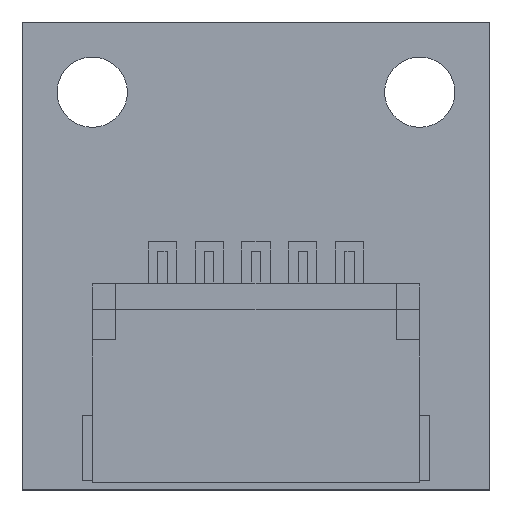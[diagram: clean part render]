
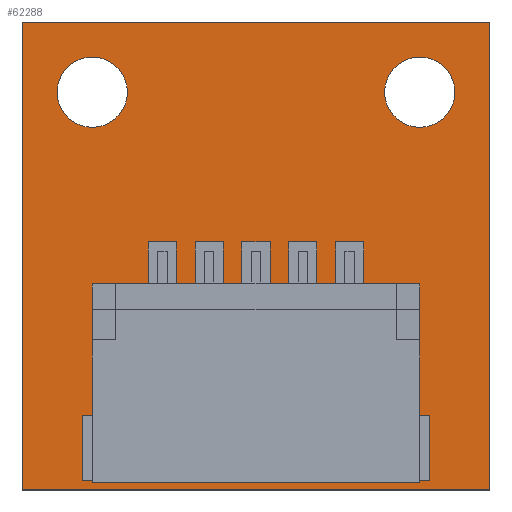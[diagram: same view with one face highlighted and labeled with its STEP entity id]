
A CAD part, top view. The second image highlights one B-rep face of the part: STEP entity #62288.
In plain terms, the highlighted planar face has unit normal (0, 0, 1).
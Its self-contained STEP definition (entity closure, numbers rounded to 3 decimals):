
#61812 = VERTEX_POINT('',#61813);
#61813 = CARTESIAN_POINT('',(15.,10.,0.6));
#61820 = PLANE('',#61821);
#61821 = AXIS2_PLACEMENT_3D('',#61822,#61823,#61824);
#61822 = CARTESIAN_POINT('',(15.,10.,0.));
#61823 = DIRECTION('',(0.,1.,0.));
#61824 = DIRECTION('',(1.,0.,0.));
#61832 = PLANE('',#61833);
#61833 = AXIS2_PLACEMENT_3D('',#61834,#61835,#61836);
#61834 = CARTESIAN_POINT('',(15.,20.,0.));
#61835 = DIRECTION('',(1.,0.,0.));
#61836 = DIRECTION('',(0.,-1.,0.));
#61844 = EDGE_CURVE('',#61812,#61845,#61847,.T.);
#61845 = VERTEX_POINT('',#61846);
#61846 = CARTESIAN_POINT('',(25.,10.,0.6));
#61847 = SURFACE_CURVE('',#61848,(#61852,#61859),.PCURVE_S1.);
#61848 = LINE('',#61849,#61850);
#61849 = CARTESIAN_POINT('',(15.,10.,0.6));
#61850 = VECTOR('',#61851,1.);
#61851 = DIRECTION('',(1.,0.,0.));
#61852 = PCURVE('',#61820,#61853);
#61853 = DEFINITIONAL_REPRESENTATION('',(#61854),#61858);
#61854 = LINE('',#61855,#61856);
#61855 = CARTESIAN_POINT('',(0.,-0.6));
#61856 = VECTOR('',#61857,1.);
#61857 = DIRECTION('',(1.,0.));
#61858 = ( GEOMETRIC_REPRESENTATION_CONTEXT(2) 
PARAMETRIC_REPRESENTATION_CONTEXT() REPRESENTATION_CONTEXT('2D SPACE',''
  ) );
#61859 = PCURVE('',#61860,#61865);
#61860 = PLANE('',#61861);
#61861 = AXIS2_PLACEMENT_3D('',#61862,#61863,#61864);
#61862 = CARTESIAN_POINT('',(20.,15.,0.6));
#61863 = DIRECTION('',(0.,0.,1.));
#61864 = DIRECTION('',(1.,0.,-0.));
#61865 = DEFINITIONAL_REPRESENTATION('',(#61866),#61870);
#61866 = LINE('',#61867,#61868);
#61867 = CARTESIAN_POINT('',(-5.,-5.));
#61868 = VECTOR('',#61869,1.);
#61869 = DIRECTION('',(1.,0.));
#61870 = ( GEOMETRIC_REPRESENTATION_CONTEXT(2) 
PARAMETRIC_REPRESENTATION_CONTEXT() REPRESENTATION_CONTEXT('2D SPACE',''
  ) );
#61888 = PLANE('',#61889);
#61889 = AXIS2_PLACEMENT_3D('',#61890,#61891,#61892);
#61890 = CARTESIAN_POINT('',(25.,10.,0.));
#61891 = DIRECTION('',(-1.,0.,0.));
#61892 = DIRECTION('',(0.,1.,0.));
#61932 = VERTEX_POINT('',#61933);
#61933 = CARTESIAN_POINT('',(15.,20.,0.6));
#61947 = PLANE('',#61948);
#61948 = AXIS2_PLACEMENT_3D('',#61949,#61950,#61951);
#61949 = CARTESIAN_POINT('',(25.,20.,0.));
#61950 = DIRECTION('',(0.,-1.,0.));
#61951 = DIRECTION('',(-1.,0.,0.));
#61959 = EDGE_CURVE('',#61932,#61812,#61960,.T.);
#61960 = SURFACE_CURVE('',#61961,(#61965,#61972),.PCURVE_S1.);
#61961 = LINE('',#61962,#61963);
#61962 = CARTESIAN_POINT('',(15.,20.,0.6));
#61963 = VECTOR('',#61964,1.);
#61964 = DIRECTION('',(0.,-1.,0.));
#61965 = PCURVE('',#61832,#61966);
#61966 = DEFINITIONAL_REPRESENTATION('',(#61967),#61971);
#61967 = LINE('',#61968,#61969);
#61968 = CARTESIAN_POINT('',(0.,-0.6));
#61969 = VECTOR('',#61970,1.);
#61970 = DIRECTION('',(1.,0.));
#61971 = ( GEOMETRIC_REPRESENTATION_CONTEXT(2) 
PARAMETRIC_REPRESENTATION_CONTEXT() REPRESENTATION_CONTEXT('2D SPACE',''
  ) );
#61972 = PCURVE('',#61860,#61973);
#61973 = DEFINITIONAL_REPRESENTATION('',(#61974),#61978);
#61974 = LINE('',#61975,#61976);
#61975 = CARTESIAN_POINT('',(-5.,5.));
#61976 = VECTOR('',#61977,1.);
#61977 = DIRECTION('',(0.,-1.));
#61978 = ( GEOMETRIC_REPRESENTATION_CONTEXT(2) 
PARAMETRIC_REPRESENTATION_CONTEXT() REPRESENTATION_CONTEXT('2D SPACE',''
  ) );
#62006 = EDGE_CURVE('',#61845,#62007,#62009,.T.);
#62007 = VERTEX_POINT('',#62008);
#62008 = CARTESIAN_POINT('',(25.,20.,0.6));
#62009 = SURFACE_CURVE('',#62010,(#62014,#62021),.PCURVE_S1.);
#62010 = LINE('',#62011,#62012);
#62011 = CARTESIAN_POINT('',(25.,10.,0.6));
#62012 = VECTOR('',#62013,1.);
#62013 = DIRECTION('',(0.,1.,0.));
#62014 = PCURVE('',#61888,#62015);
#62015 = DEFINITIONAL_REPRESENTATION('',(#62016),#62020);
#62016 = LINE('',#62017,#62018);
#62017 = CARTESIAN_POINT('',(0.,-0.6));
#62018 = VECTOR('',#62019,1.);
#62019 = DIRECTION('',(1.,0.));
#62020 = ( GEOMETRIC_REPRESENTATION_CONTEXT(2) 
PARAMETRIC_REPRESENTATION_CONTEXT() REPRESENTATION_CONTEXT('2D SPACE',''
  ) );
#62021 = PCURVE('',#61860,#62022);
#62022 = DEFINITIONAL_REPRESENTATION('',(#62023),#62027);
#62023 = LINE('',#62024,#62025);
#62024 = CARTESIAN_POINT('',(5.,-5.));
#62025 = VECTOR('',#62026,1.);
#62026 = DIRECTION('',(0.,1.));
#62027 = ( GEOMETRIC_REPRESENTATION_CONTEXT(2) 
PARAMETRIC_REPRESENTATION_CONTEXT() REPRESENTATION_CONTEXT('2D SPACE',''
  ) );
#62077 = EDGE_CURVE('',#62007,#61932,#62078,.T.);
#62078 = SURFACE_CURVE('',#62079,(#62083,#62090),.PCURVE_S1.);
#62079 = LINE('',#62080,#62081);
#62080 = CARTESIAN_POINT('',(25.,20.,0.6));
#62081 = VECTOR('',#62082,1.);
#62082 = DIRECTION('',(-1.,0.,0.));
#62083 = PCURVE('',#61947,#62084);
#62084 = DEFINITIONAL_REPRESENTATION('',(#62085),#62089);
#62085 = LINE('',#62086,#62087);
#62086 = CARTESIAN_POINT('',(0.,-0.6));
#62087 = VECTOR('',#62088,1.);
#62088 = DIRECTION('',(1.,0.));
#62089 = ( GEOMETRIC_REPRESENTATION_CONTEXT(2) 
PARAMETRIC_REPRESENTATION_CONTEXT() REPRESENTATION_CONTEXT('2D SPACE',''
  ) );
#62090 = PCURVE('',#61860,#62091);
#62091 = DEFINITIONAL_REPRESENTATION('',(#62092),#62096);
#62092 = LINE('',#62093,#62094);
#62093 = CARTESIAN_POINT('',(5.,5.));
#62094 = VECTOR('',#62095,1.);
#62095 = DIRECTION('',(-1.,0.));
#62096 = ( GEOMETRIC_REPRESENTATION_CONTEXT(2) 
PARAMETRIC_REPRESENTATION_CONTEXT() REPRESENTATION_CONTEXT('2D SPACE',''
  ) );
#62133 = CYLINDRICAL_SURFACE('',#62134,0.751);
#62134 = AXIS2_PLACEMENT_3D('',#62135,#62136,#62137);
#62135 = CARTESIAN_POINT('',(16.5,18.5,0.));
#62136 = DIRECTION('',(-0.,-0.,-1.));
#62137 = DIRECTION('',(1.,0.,0.));
#62153 = VERTEX_POINT('',#62154);
#62154 = CARTESIAN_POINT('',(17.251,18.5,0.6));
#62175 = EDGE_CURVE('',#62153,#62153,#62176,.T.);
#62176 = SURFACE_CURVE('',#62177,(#62182,#62189),.PCURVE_S1.);
#62177 = CIRCLE('',#62178,0.751);
#62178 = AXIS2_PLACEMENT_3D('',#62179,#62180,#62181);
#62179 = CARTESIAN_POINT('',(16.5,18.5,0.6));
#62180 = DIRECTION('',(0.,0.,1.));
#62181 = DIRECTION('',(1.,0.,-0.));
#62182 = PCURVE('',#62133,#62183);
#62183 = DEFINITIONAL_REPRESENTATION('',(#62184),#62188);
#62184 = LINE('',#62185,#62186);
#62185 = CARTESIAN_POINT('',(6.283,-0.6));
#62186 = VECTOR('',#62187,1.);
#62187 = DIRECTION('',(-1.,0.));
#62188 = ( GEOMETRIC_REPRESENTATION_CONTEXT(2) 
PARAMETRIC_REPRESENTATION_CONTEXT() REPRESENTATION_CONTEXT('2D SPACE',''
  ) );
#62189 = PCURVE('',#61860,#62190);
#62190 = DEFINITIONAL_REPRESENTATION('',(#62191),#62195);
#62191 = CIRCLE('',#62192,0.751);
#62192 = AXIS2_PLACEMENT_2D('',#62193,#62194);
#62193 = CARTESIAN_POINT('',(-3.5,3.5));
#62194 = DIRECTION('',(1.,0.));
#62195 = ( GEOMETRIC_REPRESENTATION_CONTEXT(2) 
PARAMETRIC_REPRESENTATION_CONTEXT() REPRESENTATION_CONTEXT('2D SPACE',''
  ) );
#62211 = CYLINDRICAL_SURFACE('',#62212,0.751);
#62212 = AXIS2_PLACEMENT_3D('',#62213,#62214,#62215);
#62213 = CARTESIAN_POINT('',(23.5,18.5,0.));
#62214 = DIRECTION('',(-0.,-0.,-1.));
#62215 = DIRECTION('',(1.,0.,0.));
#62231 = VERTEX_POINT('',#62232);
#62232 = CARTESIAN_POINT('',(24.251,18.5,0.6));
#62253 = EDGE_CURVE('',#62231,#62231,#62254,.T.);
#62254 = SURFACE_CURVE('',#62255,(#62260,#62267),.PCURVE_S1.);
#62255 = CIRCLE('',#62256,0.751);
#62256 = AXIS2_PLACEMENT_3D('',#62257,#62258,#62259);
#62257 = CARTESIAN_POINT('',(23.5,18.5,0.6));
#62258 = DIRECTION('',(0.,0.,1.));
#62259 = DIRECTION('',(1.,0.,-0.));
#62260 = PCURVE('',#62211,#62261);
#62261 = DEFINITIONAL_REPRESENTATION('',(#62262),#62266);
#62262 = LINE('',#62263,#62264);
#62263 = CARTESIAN_POINT('',(6.283,-0.6));
#62264 = VECTOR('',#62265,1.);
#62265 = DIRECTION('',(-1.,0.));
#62266 = ( GEOMETRIC_REPRESENTATION_CONTEXT(2) 
PARAMETRIC_REPRESENTATION_CONTEXT() REPRESENTATION_CONTEXT('2D SPACE',''
  ) );
#62267 = PCURVE('',#61860,#62268);
#62268 = DEFINITIONAL_REPRESENTATION('',(#62269),#62273);
#62269 = CIRCLE('',#62270,0.751);
#62270 = AXIS2_PLACEMENT_2D('',#62271,#62272);
#62271 = CARTESIAN_POINT('',(3.5,3.5));
#62272 = DIRECTION('',(1.,0.));
#62273 = ( GEOMETRIC_REPRESENTATION_CONTEXT(2) 
PARAMETRIC_REPRESENTATION_CONTEXT() REPRESENTATION_CONTEXT('2D SPACE',''
  ) );
#62288 = ADVANCED_FACE('',(#62289,#62295,#62298),#61860,.T.);
#62289 = FACE_BOUND('',#62290,.T.);
#62290 = EDGE_LOOP('',(#62291,#62292,#62293,#62294));
#62291 = ORIENTED_EDGE('',*,*,#61844,.T.);
#62292 = ORIENTED_EDGE('',*,*,#62006,.T.);
#62293 = ORIENTED_EDGE('',*,*,#62077,.T.);
#62294 = ORIENTED_EDGE('',*,*,#61959,.T.);
#62295 = FACE_BOUND('',#62296,.T.);
#62296 = EDGE_LOOP('',(#62297));
#62297 = ORIENTED_EDGE('',*,*,#62175,.F.);
#62298 = FACE_BOUND('',#62299,.T.);
#62299 = EDGE_LOOP('',(#62300));
#62300 = ORIENTED_EDGE('',*,*,#62253,.F.);
